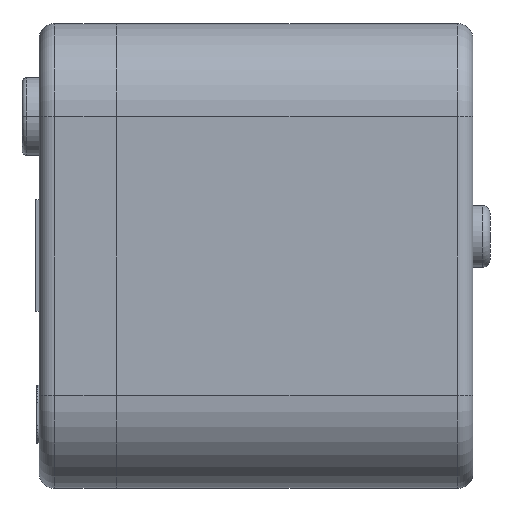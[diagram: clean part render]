
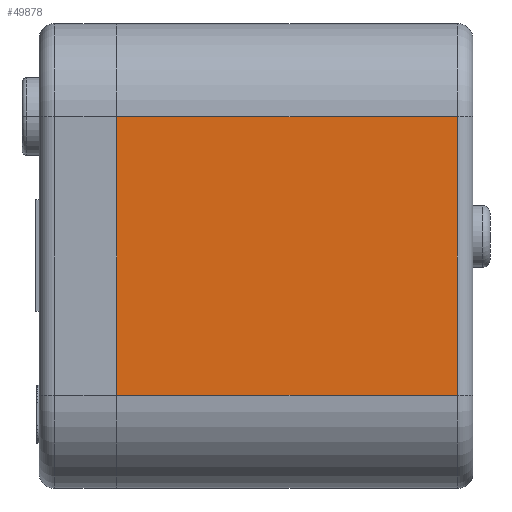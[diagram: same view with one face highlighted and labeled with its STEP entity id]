
A CAD part, left-side view. The second image highlights one B-rep face of the part: STEP entity #49878.
In plain terms, the highlighted planar face has unit normal (-1, 0, 0).
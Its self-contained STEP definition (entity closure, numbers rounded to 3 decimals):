
#1099 = VERTEX_POINT ( 'NONE', #41174 ) ;
#2696 = ORIENTED_EDGE ( 'NONE', *, *, #14321, .F. ) ;
#6044 = ORIENTED_EDGE ( 'NONE', *, *, #12256, .F. ) ;
#10573 = LINE ( 'NONE', #60652, #25366 ) ;
#11021 = VERTEX_POINT ( 'NONE', #57023 ) ;
#11122 = LINE ( 'NONE', #24522, #66562 ) ;
#12256 = EDGE_CURVE ( 'NONE', #56431, #1099, #10573, .T. ) ;
#14088 = EDGE_CURVE ( 'NONE', #15457, #1099, #11122, .T. ) ;
#14321 = EDGE_CURVE ( 'NONE', #11021, #56431, #22441, .T. ) ;
#14517 = CARTESIAN_POINT ( 'NONE',  ( 0., 23., -6. ) ) ;
#15457 = VERTEX_POINT ( 'NONE', #28896 ) ;
#22441 = LINE ( 'NONE', #14517, #28494 ) ;
#23125 = CARTESIAN_POINT ( 'NONE',  ( 0., 23., -24. ) ) ;
#24522 = CARTESIAN_POINT ( 'NONE',  ( 0., 1., -6. ) ) ;
#24886 = CARTESIAN_POINT ( 'NONE',  ( 0., 23., -6. ) ) ;
#25366 = VECTOR ( 'NONE', #60393, 1000. ) ;
#28494 = VECTOR ( 'NONE', #59057, 1000. ) ;
#28896 = CARTESIAN_POINT ( 'NONE',  ( 0., 1., -24. ) ) ;
#28927 = DIRECTION ( 'NONE',  ( 0., -1., 0. ) ) ;
#29936 = PLANE ( 'NONE',  #67976 ) ;
#35367 = DIRECTION ( 'NONE',  ( 0., 0., 1. ) ) ;
#35465 = ORIENTED_EDGE ( 'NONE', *, *, #69691, .T. ) ;
#41027 = DIRECTION ( 'NONE',  ( 0., 0., -1. ) ) ;
#41174 = CARTESIAN_POINT ( 'NONE',  ( 0., 1., -6. ) ) ;
#45378 = VECTOR ( 'NONE', #28927, 1000. ) ;
#47286 = ORIENTED_EDGE ( 'NONE', *, *, #14088, .T. ) ;
#49439 = FACE_OUTER_BOUND ( 'NONE', #51422, .T. ) ;
#49878 = ADVANCED_FACE ( 'NONE', ( #49439 ), #29936, .F. ) ;
#51422 = EDGE_LOOP ( 'NONE', ( #35465, #47286, #6044, #2696 ) ) ;
#54846 = LINE ( 'NONE', #23125, #45378 ) ;
#56431 = VERTEX_POINT ( 'NONE', #24886 ) ;
#57023 = CARTESIAN_POINT ( 'NONE',  ( 0., 23., -24. ) ) ;
#57968 = CARTESIAN_POINT ( 'NONE',  ( 0., 23., -6. ) ) ;
#58217 = DIRECTION ( 'NONE',  ( 1., 0., 0. ) ) ;
#59057 = DIRECTION ( 'NONE',  ( 0., 0., 1. ) ) ;
#60393 = DIRECTION ( 'NONE',  ( 0., -1., 0. ) ) ;
#60652 = CARTESIAN_POINT ( 'NONE',  ( 0., 23., -6. ) ) ;
#66562 = VECTOR ( 'NONE', #35367, 1000. ) ;
#67976 = AXIS2_PLACEMENT_3D ( 'NONE', #57968, #58217, #41027 ) ;
#69691 = EDGE_CURVE ( 'NONE', #11021, #15457, #54846, .T. ) ;
